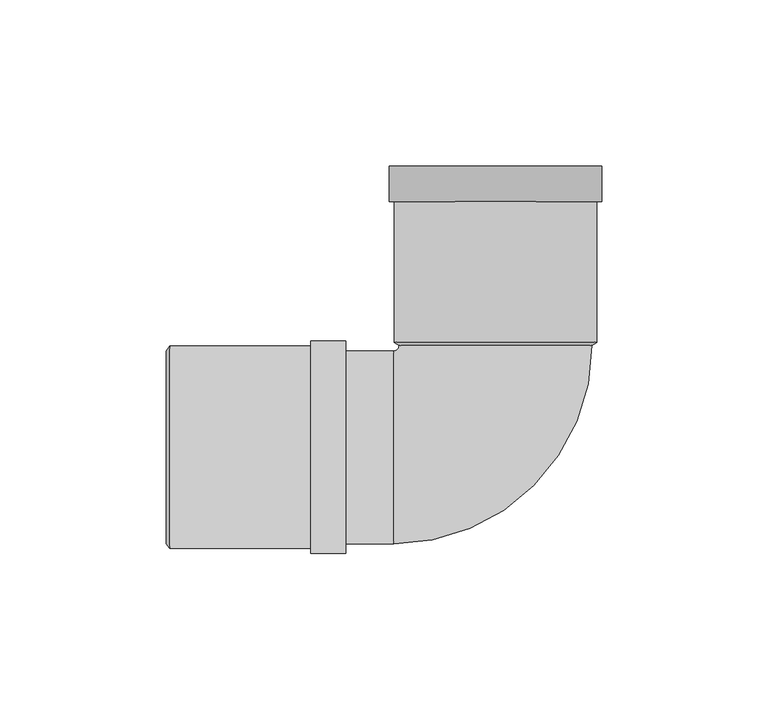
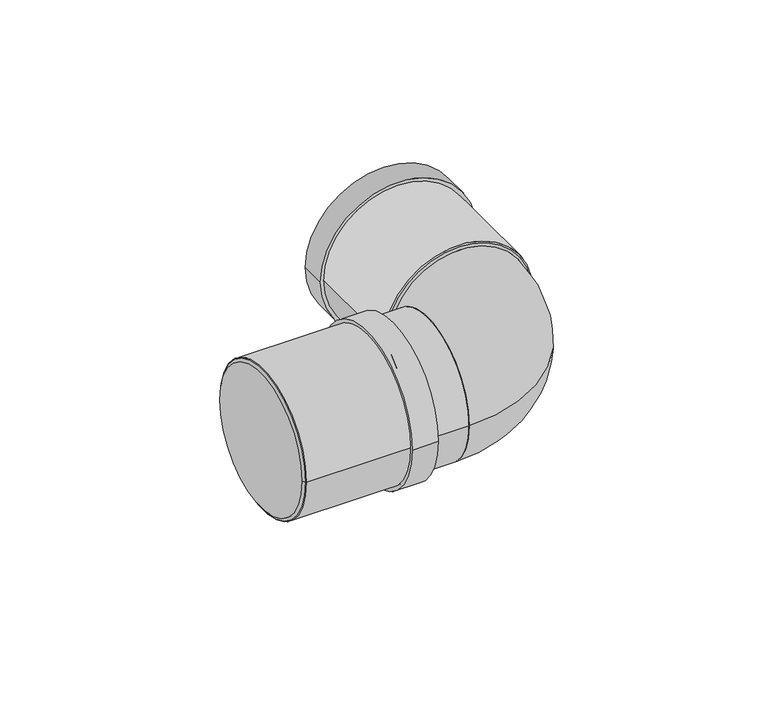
"""IFC4 building model written with IfcOpenShell, lengths in millimetres: pipe fitting geometry, Superdrain SK Bend_Composite 2x45 : Superdrain SK Bend_Composite 2x45."""

from ifc_helpers import new_model, si_unit, point, frame, origin, origin_2d, place, context, project, spatial, polyline, circle_curve, ellipse_curve, trimmed, segment, composite_curve, outline, extrude, source, transform, mapped, element, save
from ifc_brep_helpers import plane_surface, revolved_surface, advanced_brep


def pipe_fitting_f10a4fb0(model_context):
    return source(origin(), model_context, "Body", "SolidModel", [
        extrude(outline(composite_curve([segment(trimmed(circle_curve(origin_2d(), 30.45), [point((30.45, 0.0))], [point((-30.45, 0.0))], False, "CARTESIAN"), True, "CONTINUOUS"), segment(trimmed(circle_curve(origin_2d(), 30.45), [point((-30.45, 0.0))], [point((30.45, 0.0))], False, "CARTESIAN"), True, "CONTINUOUS")], self_intersect=False), holes=[composite_curve([segment(trimmed(circle_curve(origin_2d(), 29.0), [point((29.0, 0.0))], [point((-29.0, 0.0))], True, "CARTESIAN"), True, "CONTINUOUS"), segment(trimmed(circle_curve(origin_2d(), 29.0), [point((-29.0, 0.0))], [point((29.0, 0.0))], True, "CARTESIAN"), True, "CONTINUOUS")], self_intersect=False)]), frame((-98.0, 0.0, 0.0), z_axis=(1.0, 0.0, 0.0), x_axis=(0.0, 1.0, 0.0)), (0.0, 0.0, 1.0), 53.0),
        extrude(outline(composite_curve([segment(trimmed(circle_curve(origin_2d(), 31.9725), [point((31.9725, 0.0))], [point((-31.9725, 0.0))], False, "CARTESIAN"), True, "CONTINUOUS"), segment(trimmed(circle_curve(origin_2d(), 31.9725), [point((-31.9725, 0.0))], [point((31.9725, 0.0))], False, "CARTESIAN"), True, "CONTINUOUS")], self_intersect=False), holes=[composite_curve([segment(trimmed(circle_curve(origin_2d(), 29.0), [point((29.0, 0.0))], [point((-29.0, 0.0))], True, "CARTESIAN"), True, "CONTINUOUS"), segment(trimmed(circle_curve(origin_2d(), 29.0), [point((-29.0, 0.0))], [point((29.0, 0.0))], True, "CARTESIAN"), True, "CONTINUOUS")], self_intersect=False)]), frame((-55.6, 0.0, 0.0), z_axis=(1.0, 0.0, 0.0), x_axis=(0.0, 1.0, 0.0)), (0.0, 0.0, 1.0), 10.6),
        advanced_brep(
        [(-99.0, 29.0, 0.0), (-99.0, -29.0, 0.0), (-98.0, 30.45, 0.0), (-98.0, -30.45, 0.0)],
        [
            (0, 1, circle_curve(frame((-99.0, 0.0, 0.0), z_axis=(-1.0, 0.0, 0.0), x_axis=(0.0, 1.0000000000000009, 0.0)), 29.0)),
            (1, 0, circle_curve(frame((-99.0, 0.0, 0.0), z_axis=(-1.0, 0.0, 0.0), x_axis=(0.0, -1.0000000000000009, 0.0)), 29.0)),
            (2, 3, circle_curve(frame((-98.0, 0.0, 0.0), z_axis=(1.0, 0.0, 0.0), x_axis=(0.0, -1.0000000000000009, 0.0)), 30.45)),
            (3, 2, circle_curve(frame((-98.0, 0.0, 0.0), z_axis=(1.0, 0.0, 0.0), x_axis=(0.0, 1.0000000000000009, 0.0)), 30.45)),
            (3, 1),
            (0, 2),
        ],
        [
            plane_surface(frame((-99.0, 0.0, 0.0), z_axis=(-1.0, 0.0, 0.0), x_axis=(0.0, 0.0, -1.0))),
            plane_surface(frame((-98.0, 0.0, 0.0), z_axis=(1.0, 0.0, 0.0), x_axis=(0.0, 0.0, -1.0))),
            revolved_surface(polyline([(-99.0, 28.999999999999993, 0.0), (-98.0, 30.45, 0.0)]), (-119.0, 0.0, 0.0), (1.0000000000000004, 0.0, 0.0)),
            revolved_surface(polyline([(-99.0, -28.999999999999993, 0.0), (-98.0, -30.45, 0.0)]), (-119.0, 0.0, 0.0), (1.0000000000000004, 0.0, 0.0)),
        ],
        [
            (0, [[1, 2]]),
            (1, [[3, 4]]),
            (2, [[-4, 5, -1, 6]]),
            (3, [[-3, -6, -2, -5]]),
        ],
    ),
        advanced_brep(
        [(29.0, 30.6, 0.0), (-29.0, 30.6, 0.0), (-30.6, -29.0, 0.0), (-30.6, 29.0, 0.0)],
        [
            (0, 1, circle_curve(frame((0.0, 30.6, 0.0), z_axis=(0.0, 1.0, 0.0), x_axis=(-1.0, 0.0, 0.0)), 29.0)),
            (1, 0, circle_curve(frame((0.0, 30.6, 0.0), z_axis=(0.0, 1.0, 0.0), x_axis=(-1.0, 0.0, 0.0)), 29.0)),
            (2, 3, circle_curve(frame((-30.6, 0.0, 0.0), z_axis=(-1.0, 0.0, 0.0), x_axis=(0.0, 1.0, 0.0)), 29.0)),
            (3, 2, circle_curve(frame((-30.6, 0.0, 0.0), z_axis=(-1.0, 0.0, 0.0), x_axis=(0.0, 1.0, 0.0)), 29.0)),
            (3, 1, circle_curve(frame((-30.6, 30.6, 0.0), z_axis=(0.0, 0.0, 1.0), x_axis=(1.0, 0.0, 0.0)), 1.6)),
            (0, 2, circle_curve(frame((-30.6, 30.6, 0.0), z_axis=(0.0, 0.0, -1.0), x_axis=(1.0, 0.0, 0.0)), 59.6)),
        ],
        [
            plane_surface(frame((0.0, 30.6, 0.0), z_axis=(0.0, 1.0, 0.0), x_axis=(0.0, 0.0, -1.0))),
            plane_surface(frame((-30.6, 0.0, 0.0), z_axis=(-1.0, 0.0, 0.0), x_axis=(0.0, 0.0, -1.0))),
            revolved_surface(trimmed(ellipse_curve(frame((0.0, 30.6, 0.0), z_axis=(0.0, -1.0, 0.0), x_axis=(-1.0, 0.0, 0.0)), 29.0, 29.0), [point((-29.0, 30.6, 0.0))], [point((29.0, 30.6, 0.0))], True, "CARTESIAN"), (-30.6, 30.6, 0.0), (0.0, 0.0, 1.0)),
            revolved_surface(trimmed(ellipse_curve(frame((0.0, 30.6, 0.0), z_axis=(0.0, -1.0, 0.0), x_axis=(-1.0, 0.0, 0.0)), 29.0, 29.0), [point((29.0, 30.6, 0.0))], [point((-29.0, 30.6, 0.0))], True, "CARTESIAN"), (-30.6, 30.6, 0.0), (0.0, 0.0, 1.0)),
        ],
        [
            (0, [[1, 2]]),
            (1, [[3, 4]]),
            (2, [[-4, 5, -1, 6]]),
            (3, [[-3, -6, -2, -5]]),
        ],
    ),
        extrude(outline(composite_curve([segment(trimmed(circle_curve(origin_2d(), 30.45), [point((0.0, 30.45))], [point((0.0, -30.45))], False, "CARTESIAN"), True, "CONTINUOUS"), segment(trimmed(circle_curve(origin_2d(), 30.45), [point((0.0, -30.45))], [point((0.0, 30.45))], False, "CARTESIAN"), True, "CONTINUOUS")], self_intersect=False), holes=[composite_curve([segment(trimmed(circle_curve(origin_2d(), 29.0), [point((0.0, 29.0))], [point((0.0, -29.0))], True, "CARTESIAN"), True, "CONTINUOUS"), segment(trimmed(circle_curve(origin_2d(), 29.0), [point((0.0, -29.0))], [point((0.0, 29.0))], True, "CARTESIAN"), True, "CONTINUOUS")], self_intersect=False)]), frame((0.0, 31.6, 0.0), z_axis=(0.0, 1.0, 0.0), x_axis=(0.0, 0.0, 1.0)), (0.0, 0.0, 1.0), 53.0),
        extrude(outline(composite_curve([segment(trimmed(circle_curve(origin_2d(), 31.9725), [point((0.0, -31.9725))], [point((0.0, 31.9725))], False, "CARTESIAN"), True, "CONTINUOUS"), segment(trimmed(circle_curve(origin_2d(), 31.9725), [point((0.0, 31.9725))], [point((0.0, -31.9725))], False, "CARTESIAN"), True, "CONTINUOUS")], self_intersect=False), holes=[composite_curve([segment(trimmed(circle_curve(origin_2d(), 29.0), [point((0.0, -29.0))], [point((0.0, 29.0))], True, "CARTESIAN"), True, "CONTINUOUS"), segment(trimmed(circle_curve(origin_2d(), 29.0), [point((0.0, 29.0))], [point((0.0, -29.0))], True, "CARTESIAN"), True, "CONTINUOUS")], self_intersect=False)]), frame((0.0, 74.0, 0.0), z_axis=(0.0, 1.0, 0.0), x_axis=(0.0, 0.0, 1.0)), (0.0, 0.0, 1.0), 10.6),
        advanced_brep(
        [(30.45, 31.6, 0.0), (-30.45, 31.6, 0.0), (29.0, 30.6, 0.0), (-29.0, 30.6, 0.0)],
        [
            (0, 1, circle_curve(frame((0.0, 31.6, 0.0), z_axis=(0.0, 1.0, 0.0), x_axis=(1.0, 0.0, 0.0)), 30.45)),
            (1, 0, circle_curve(frame((0.0, 31.6, 0.0), z_axis=(0.0, 1.0, 0.0), x_axis=(-1.0, 0.0, 0.0)), 30.45)),
            (2, 3, circle_curve(frame((0.0, 30.6, 0.0), z_axis=(0.0, -1.0, 0.0), x_axis=(-1.0, 0.0, 0.0)), 29.0)),
            (3, 2, circle_curve(frame((0.0, 30.6, 0.0), z_axis=(0.0, -1.0, 0.0), x_axis=(1.0, 0.0, 0.0)), 29.0)),
            (3, 1),
            (0, 2),
        ],
        [
            plane_surface(frame((0.0, 31.6, 0.0), z_axis=(0.0, 1.0, 0.0), x_axis=(0.0, 0.0, -1.0))),
            plane_surface(frame((0.0, 30.6, 0.0), z_axis=(0.0, -1.0, 0.0), x_axis=(0.0, 0.0, -1.0))),
            revolved_surface(polyline([(-28.999999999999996, 30.6, 0.0), (-30.45, 31.6, 0.0)]), (0.0, 10.6, 0.0), (0.0, 1.0, 0.0)),
            revolved_surface(polyline([(28.999999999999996, 30.6, 0.0), (30.45, 31.6, 0.0)]), (0.0, 10.6, 0.0), (0.0, 1.0, 0.0)),
        ],
        [
            (0, [[1, 2]]),
            (1, [[3, 4]]),
            (2, [[-4, 5, -1, 6]]),
            (3, [[-3, -6, -2, -5]]),
        ],
    ),
        extrude(outline(composite_curve([segment(trimmed(circle_curve(origin_2d(), 29.0), [point((-29.0, 0.0))], [point((29.0, 0.0))], False, "CARTESIAN"), True, "CONTINUOUS"), segment(trimmed(circle_curve(origin_2d(), 29.0), [point((29.0, 0.0))], [point((-29.0, 0.0))], False, "CARTESIAN"), True, "CONTINUOUS")], self_intersect=False)), frame((-98.0, 0.0, 0.0), z_axis=(1.0, 0.0, 0.0), x_axis=(0.0, 1.0, 0.0)), (0.0, 0.0, 1.0), 67.4),
    ])


if __name__ == "__main__":
    model = new_model("IFC4")
    model_context = context("Model", 3, world=origin())
    ifc_project = project(units=[si_unit("LENGTHUNIT", "METRE", prefix="MILLI")], contexts=[model_context])
    site = spatial("IfcSite", under=ifc_project)
    building = spatial("IfcBuilding", under=site)
    placement = place(None, origin())
    pipe_fitting_shape = pipe_fitting_f10a4fb0(model_context)
    element("IfcPipeFitting", 1, ObjectType="Superdrain SK Bend_Composite 2x45 : Superdrain SK Bend_Composite 2x45", at=placement, inside=building, context=model_context, shape_type="MappedRepresentation", body=[
        mapped(pipe_fitting_shape, transform((0.0, 0.0, 0.0), x_axis=(1.0, 0.0, 0.0), y_axis=(0.0, 1.0, 0.0), z_axis=(0.0, 0.0, 1.0))),
    ])
    save(model, "model.ifc")
